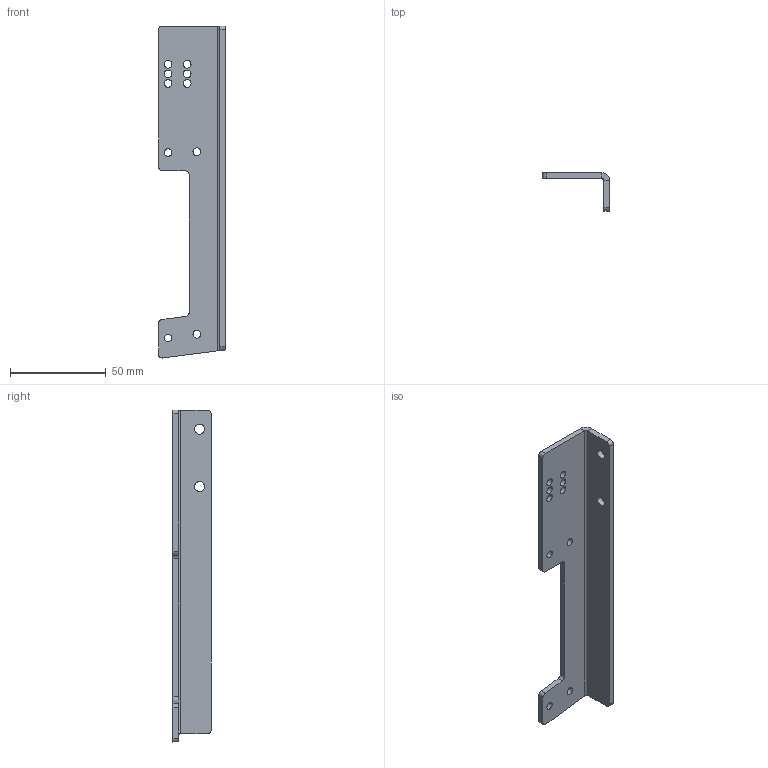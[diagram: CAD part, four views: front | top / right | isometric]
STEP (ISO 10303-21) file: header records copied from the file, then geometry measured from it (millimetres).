
FILE_DESCRIPTION((''),'2;1');
FILE_NAME('0000187047','2024-01-01T18:36:07',('Wyndorps'),(''),'CREO PARAMETRIC BY PTC INC, 2022484','CREO PARAMETRIC BY PTC INC, 2022484','');
FILE_SCHEMA(('CONFIG_CONTROL_DESIGN'));
Length unit declared in the file: millimetre
Products named in the file (1): 0000187047
Bounding box: 35 x 20 x 173.49 mm (x, y, z)
Volume: 21889.4 mm3; surface area: 16473.6 mm2
Topology: 1 solids, 1 shells, 50 faces, 136 edges, 88 vertices
Faces by surface type: cylinder 34, plane 15, bspline 1
Entity records: 1756 total; most frequent: CARTESIAN_POINT 349, DIRECTION 298, ORIENTED_EDGE 272, EDGE_CURVE 136, AXIS2_PLACEMENT_3D 115, VERTEX_POINT 88, EDGE_LOOP 74, VECTOR 68
